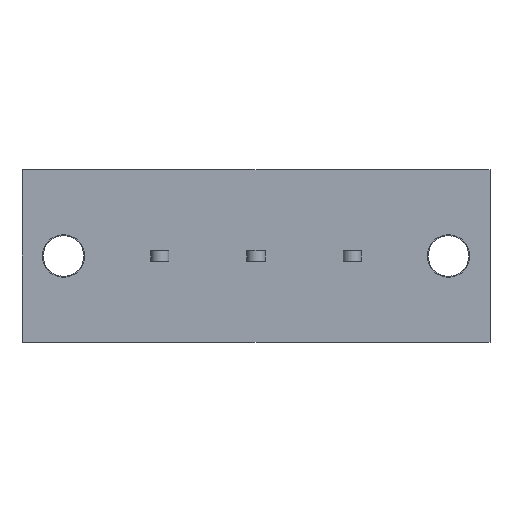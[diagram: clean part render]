
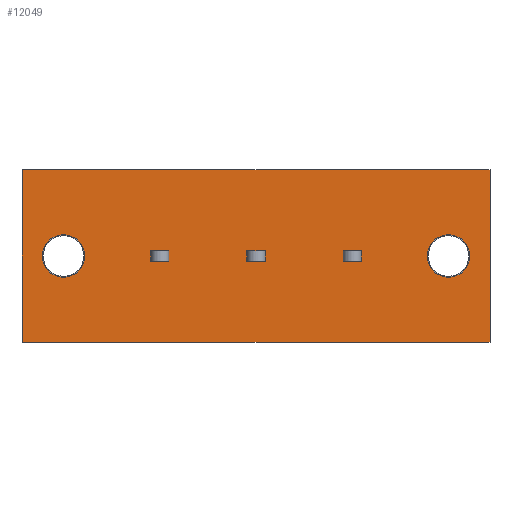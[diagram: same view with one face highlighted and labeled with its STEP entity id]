
A CAD part, front view. The second image highlights one B-rep face of the part: STEP entity #12049.
In plain terms, the highlighted planar face has unit normal (0, -1, 0).
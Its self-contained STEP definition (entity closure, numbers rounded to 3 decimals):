
#591=CIRCLE('',#12471,2.1);
#675=CIRCLE('',#12820,2.1);
#771=VERTEX_POINT('',#15669);
#772=VERTEX_POINT('',#15670);
#775=VERTEX_POINT('',#15678);
#787=VERTEX_POINT('',#15716);
#879=VERTEX_POINT('',#15986);
#1210=VERTEX_POINT('',#17458);
#1211=VERTEX_POINT('',#17460);
#1255=VERTEX_POINT('',#17648);
#1256=VERTEX_POINT('',#17649);
#1259=VERTEX_POINT('',#17657);
#1287=VERTEX_POINT('',#17728);
#1418=VERTEX_POINT('',#18160);
#1425=VERTEX_POINT('',#18177);
#1426=VERTEX_POINT('',#18179);
#1427=VERTEX_POINT('',#18180);
#1428=VERTEX_POINT('',#18182);
#1429=VERTEX_POINT('',#18184);
#1430=VERTEX_POINT('',#18187);
#1992=VECTOR('',#13192,1.);
#1995=VECTOR('',#13198,1.);
#2007=VECTOR('',#13234,1.);
#2009=VECTOR('',#13237,1.);
#2500=VECTOR('',#13968,1.);
#2537=VECTOR('',#14116,1.);
#2540=VECTOR('',#14122,1.);
#2566=VECTOR('',#14177,1.);
#2568=VECTOR('',#14180,1.);
#2695=VECTOR('',#14518,1.);
#2704=VECTOR('',#14530,1.);
#2705=VECTOR('',#14531,1.);
#2706=VECTOR('',#14532,1.);
#2707=VECTOR('',#14533,1.);
#2708=VECTOR('',#14534,1.);
#2709=VECTOR('',#14535,1.);
#3342=LINE('',#15668,#1992);
#3345=LINE('',#15677,#1995);
#3357=LINE('',#15715,#2007);
#3359=LINE('',#15719,#2009);
#3850=LINE('',#17459,#2500);
#3887=LINE('',#17647,#2537);
#3890=LINE('',#17656,#2540);
#3916=LINE('',#17727,#2566);
#3918=LINE('',#17731,#2568);
#4045=LINE('',#18159,#2695);
#4054=LINE('',#18178,#2704);
#4055=LINE('',#18181,#2705);
#4056=LINE('',#18183,#2706);
#4057=LINE('',#18185,#2707);
#4058=LINE('',#18186,#2708);
#4059=LINE('',#18188,#2709);
#4694=EDGE_CURVE('',#771,#772,#3342,.T.);
#4698=EDGE_CURVE('',#772,#775,#3345,.T.);
#4717=EDGE_CURVE('',#787,#771,#3357,.T.);
#4719=EDGE_CURVE('',#775,#787,#3359,.T.);
#4851=EDGE_CURVE('',#879,#879,#591,.T.);
#5345=EDGE_CURVE('',#1210,#1211,#3850,.T.);
#5419=EDGE_CURVE('',#1255,#1256,#3887,.T.);
#5423=EDGE_CURVE('',#1256,#1259,#3890,.T.);
#5458=EDGE_CURVE('',#1287,#1255,#3916,.T.);
#5460=EDGE_CURVE('',#1259,#1287,#3918,.T.);
#5654=EDGE_CURVE('',#1418,#1210,#4045,.T.);
#5663=EDGE_CURVE('',#1425,#1425,#675,.T.);
#5664=EDGE_CURVE('',#1426,#1427,#4054,.T.);
#5665=EDGE_CURVE('',#1427,#1428,#4055,.T.);
#5666=EDGE_CURVE('',#1428,#1429,#4056,.T.);
#5667=EDGE_CURVE('',#1429,#1426,#4057,.T.);
#5668=EDGE_CURVE('',#1430,#1211,#4058,.T.);
#5669=EDGE_CURVE('',#1430,#1418,#4059,.T.);
#8398=ORIENTED_EDGE('',*,*,#4694,.T.);
#8399=ORIENTED_EDGE('',*,*,#4698,.T.);
#8400=ORIENTED_EDGE('',*,*,#4719,.T.);
#8401=ORIENTED_EDGE('',*,*,#4717,.T.);
#8402=ORIENTED_EDGE('',*,*,#4851,.T.);
#8403=ORIENTED_EDGE('',*,*,#5663,.T.);
#8404=ORIENTED_EDGE('',*,*,#5419,.T.);
#8405=ORIENTED_EDGE('',*,*,#5423,.T.);
#8406=ORIENTED_EDGE('',*,*,#5460,.T.);
#8407=ORIENTED_EDGE('',*,*,#5458,.T.);
#8408=ORIENTED_EDGE('',*,*,#5664,.T.);
#8409=ORIENTED_EDGE('',*,*,#5665,.T.);
#8410=ORIENTED_EDGE('',*,*,#5666,.T.);
#8411=ORIENTED_EDGE('',*,*,#5667,.T.);
#8412=ORIENTED_EDGE('',*,*,#5668,.T.);
#8413=ORIENTED_EDGE('',*,*,#5345,.F.);
#8414=ORIENTED_EDGE('',*,*,#5654,.F.);
#8415=ORIENTED_EDGE('',*,*,#5669,.F.);
#10541=EDGE_LOOP('',(#8398,#8399,#8400,#8401));
#10542=EDGE_LOOP('',(#8402));
#10543=EDGE_LOOP('',(#8403));
#10544=EDGE_LOOP('',(#8404,#8405,#8406,#8407));
#10545=EDGE_LOOP('',(#8408,#8409,#8410,#8411));
#10546=EDGE_LOOP('',(#8412,#8413,#8414,#8415));
#11315=FACE_BOUND('',#10541,.T.);
#11316=FACE_BOUND('',#10542,.T.);
#11317=FACE_BOUND('',#10543,.T.);
#11318=FACE_BOUND('',#10544,.T.);
#11319=FACE_BOUND('',#10545,.T.);
#11320=FACE_BOUND('',#10546,.T.);
#12049=ADVANCED_FACE('',(#11315,#11316,#11317,#11318,#11319,#11320),#20618,
 .T.);
#12471=AXIS2_PLACEMENT_3D('',#15985,#13448,#13449);
#12819=AXIS2_PLACEMENT_3D('',#18175,#14527,$);
#12820=AXIS2_PLACEMENT_3D('',#18176,#14528,#14529);
#13192=DIRECTION('',(1.,0.,0.));
#13198=DIRECTION('',(0.,0.,-1.));
#13234=DIRECTION('',(0.,0.,1.));
#13237=DIRECTION('',(-1.,0.,0.));
#13448=DIRECTION('',(0.,1.,0.));
#13449=DIRECTION('',(-2.1,0.,0.));
#13968=DIRECTION('',(0.,0.,-1.));
#14116=DIRECTION('',(1.,0.,0.));
#14122=DIRECTION('',(0.,0.,-1.));
#14177=DIRECTION('',(0.,0.,1.));
#14180=DIRECTION('',(-1.,0.,0.));
#14518=DIRECTION('',(1.,0.,0.));
#14527=DIRECTION('',(0.,-1.,0.));
#14528=DIRECTION('',(0.,1.,0.));
#14529=DIRECTION('',(2.1,0.,0.));
#14530=DIRECTION('',(1.,0.,0.));
#14531=DIRECTION('',(0.,0.,-1.));
#14532=DIRECTION('',(-1.,0.,0.));
#14533=DIRECTION('',(0.,0.,1.));
#14534=DIRECTION('',(1.,0.,0.));
#14535=DIRECTION('',(0.,0.,1.));
#15668=CARTESIAN_POINT('',(7.475,0.,0.5));
#15669=CARTESIAN_POINT('',(4.55,0.,0.5));
#15670=CARTESIAN_POINT('',(6.35,0.,0.5));
#15677=CARTESIAN_POINT('',(6.35,0.,1.75));
#15678=CARTESIAN_POINT('',(6.35,0.,-0.5));
#15715=CARTESIAN_POINT('',(4.55,0.,1.75));
#15716=CARTESIAN_POINT('',(4.55,0.,-0.5));
#15719=CARTESIAN_POINT('',(7.475,0.,-0.5));
#15985=CARTESIAN_POINT('',(33.95,0.,0.));
#15986=CARTESIAN_POINT('',(36.05,0.,0.));
#17458=CARTESIAN_POINT('',(38.05,0.,8.5));
#17459=CARTESIAN_POINT('',(38.05,0.,8.5));
#17460=CARTESIAN_POINT('',(38.05,0.,-8.5));
#17647=CARTESIAN_POINT('',(16.975,0.,0.5));
#17648=CARTESIAN_POINT('',(23.55,0.,0.5));
#17649=CARTESIAN_POINT('',(25.35,0.,0.5));
#17656=CARTESIAN_POINT('',(25.35,0.,1.75));
#17657=CARTESIAN_POINT('',(25.35,0.,-0.5));
#17727=CARTESIAN_POINT('',(23.55,0.,1.75));
#17728=CARTESIAN_POINT('',(23.55,0.,-0.5));
#17731=CARTESIAN_POINT('',(16.975,0.,-0.5));
#18159=CARTESIAN_POINT('',(-8.15,0.,8.5));
#18160=CARTESIAN_POINT('',(-8.15,0.,8.5));
#18175=CARTESIAN_POINT('',(9.5,0.,0.));
#18176=CARTESIAN_POINT('',(-4.05,0.,0.));
#18177=CARTESIAN_POINT('',(-6.15,0.,0.));
#18178=CARTESIAN_POINT('',(12.225,0.,0.5));
#18179=CARTESIAN_POINT('',(14.05,0.,0.5));
#18180=CARTESIAN_POINT('',(15.85,0.,0.5));
#18181=CARTESIAN_POINT('',(15.85,0.,1.75));
#18182=CARTESIAN_POINT('',(15.85,0.,-0.5));
#18183=CARTESIAN_POINT('',(12.225,0.,-0.5));
#18184=CARTESIAN_POINT('',(14.05,0.,-0.5));
#18185=CARTESIAN_POINT('',(14.05,0.,1.75));
#18186=CARTESIAN_POINT('',(-8.15,0.,-8.5));
#18187=CARTESIAN_POINT('',(-8.15,0.,-8.5));
#18188=CARTESIAN_POINT('',(-8.15,0.,-8.5));
#20618=PLANE('',#12819);
